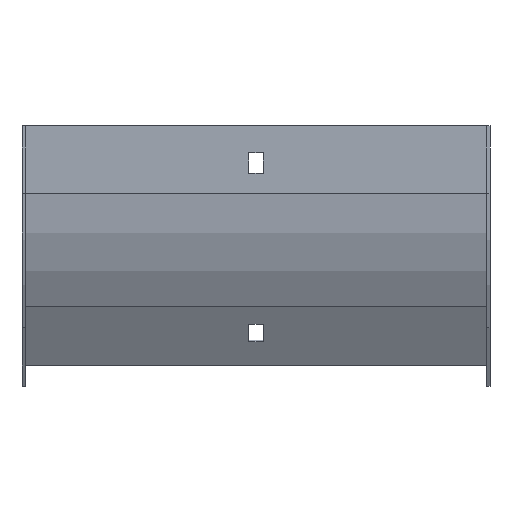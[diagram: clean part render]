
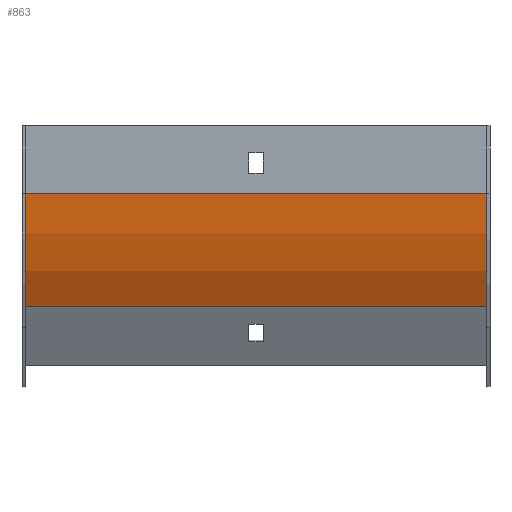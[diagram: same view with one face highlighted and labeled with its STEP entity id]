
A CAD part, front view. The second image highlights one B-rep face of the part: STEP entity #863.
In plain terms, the highlighted cylindrical face has radius 100 mm (diameter 200 mm), a partial arc.
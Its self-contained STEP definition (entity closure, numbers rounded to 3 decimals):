
#17 = DIRECTION ( 'NONE',  ( 0., 0., -1. ) ) ;
#34 = VERTEX_POINT ( 'NONE', #502 ) ;
#74 = CARTESIAN_POINT ( 'NONE',  ( -102., 98.5, -30. ) ) ;
#86 = ORIENTED_EDGE ( 'NONE', *, *, #789, .T. ) ;
#139 = AXIS2_PLACEMENT_3D ( 'NONE', #74, #278, #17 ) ;
#149 = VERTEX_POINT ( 'NONE', #310 ) ;
#175 = DIRECTION ( 'NONE',  ( -1., 0., 0. ) ) ;
#185 = EDGE_CURVE ( 'NONE', #815, #314, #499, .T. ) ;
#194 = ORIENTED_EDGE ( 'NONE', *, *, #833, .F. ) ;
#195 = VECTOR ( 'NONE', #603, 1000. ) ;
#263 = CARTESIAN_POINT ( 'NONE',  ( 103.5, 11.897, -80. ) ) ;
#278 = DIRECTION ( 'NONE',  ( -1., 0., 0. ) ) ;
#282 = AXIS2_PLACEMENT_3D ( 'NONE', #767, #813, #352 ) ;
#310 = CARTESIAN_POINT ( 'NONE',  ( 102., 11.897, -80. ) ) ;
#314 = VERTEX_POINT ( 'NONE', #349 ) ;
#349 = CARTESIAN_POINT ( 'NONE',  ( -102., -1.5, -30. ) ) ;
#352 = DIRECTION ( 'NONE',  ( 0., 0., 1. ) ) ;
#371 = LINE ( 'NONE', #503, #636 ) ;
#487 = ORIENTED_EDGE ( 'NONE', *, *, #799, .T. ) ;
#499 = CIRCLE ( 'NONE', #139, 100. ) ;
#502 = CARTESIAN_POINT ( 'NONE',  ( 102., -1.5, -30. ) ) ;
#503 = CARTESIAN_POINT ( 'NONE',  ( 103.5, -1.5, -30. ) ) ;
#580 = DIRECTION ( 'NONE',  ( -1., 0., 0. ) ) ;
#603 = DIRECTION ( 'NONE',  ( -1., 0., 0. ) ) ;
#636 = VECTOR ( 'NONE', #175, 1000. ) ;
#654 = CARTESIAN_POINT ( 'NONE',  ( -102., 11.897, -80. ) ) ;
#661 = CARTESIAN_POINT ( 'NONE',  ( 102., 98.5, -30. ) ) ;
#691 = CYLINDRICAL_SURFACE ( 'NONE', #282, 100. ) ;
#719 = AXIS2_PLACEMENT_3D ( 'NONE', #661, #580, #844 ) ;
#725 = ORIENTED_EDGE ( 'NONE', *, *, #185, .F. ) ;
#755 = FACE_OUTER_BOUND ( 'NONE', #782, .T. ) ;
#758 = LINE ( 'NONE', #263, #195 ) ;
#767 = CARTESIAN_POINT ( 'NONE',  ( 103.5, 98.5, -30. ) ) ;
#782 = EDGE_LOOP ( 'NONE', ( #725, #194, #86, #487 ) ) ;
#789 = EDGE_CURVE ( 'NONE', #149, #34, #841, .T. ) ;
#799 = EDGE_CURVE ( 'NONE', #34, #314, #371, .T. ) ;
#813 = DIRECTION ( 'NONE',  ( -1., 0., 0. ) ) ;
#815 = VERTEX_POINT ( 'NONE', #654 ) ;
#833 = EDGE_CURVE ( 'NONE', #149, #815, #758, .T. ) ;
#841 = CIRCLE ( 'NONE', #719, 100. ) ;
#844 = DIRECTION ( 'NONE',  ( 0., 0., -1. ) ) ;
#863 = ADVANCED_FACE ( 'NONE', ( #755 ), #691, .T. ) ;
